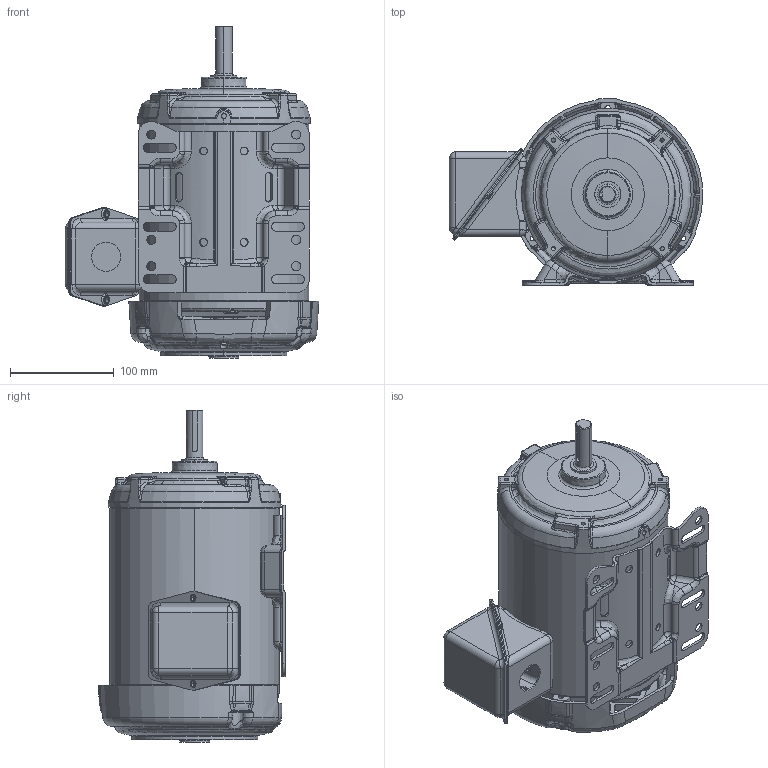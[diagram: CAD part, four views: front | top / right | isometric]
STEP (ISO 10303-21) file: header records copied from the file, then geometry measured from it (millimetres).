
FILE_DESCRIPTION((''),'2;1');
FILE_NAME('140_ASSY_ASM','2016-07-26T',('EMD2341'),('Nidec Motor Corporation'),'PRO/ENGINEER BY PARAMETRIC TECHNOLOGY CORPORATION, 2013150','PRO/ENGINEER BY PARAMETRIC TECHNOLOGY CORPORATION, 2013150','');
FILE_SCHEMA(('CONFIG_CONTROL_DESIGN'));
Length unit declared in the file: inch
Products named in the file (12): 143UT_AF0; 0190767; 0774783; 2030012; 0387280-BKT_AF0; I20258935000_AF0; 0387281_ASM; 0343740; 0399601; 0912536; B35796439; 140_ASSY_ASM
Assembly tree (11 placements, depth 3):
  140_ASSY_ASM
    143UT_AF0
    0190767
    0774783
    2030012
    0387281_ASM
      0387280-BKT_AF0
      I20258935000_AF0
    0343740
    0399601
    0912536
    B35796439
Bounding box: 244.51 x 180.07 x 320.15 mm (x, y, z)
Volume: 896184.7 mm3; surface area: 575408.7 mm2
Topology: 12 solids, 12 shells, 2477 faces, 6108 edges, 3643 vertices
Faces by surface type: bspline 1022, cylinder 494, plane 431, torus 277, cone 179, sphere 74
Entity records: 117116 total; most frequent: CARTESIAN_POINT 65390, ORIENTED_EDGE 12192, DIRECTION 9012, EDGE_CURVE 6096, AXIS2_PLACEMENT_3D 3830, VERTEX_POINT 3643, EDGE_LOOP 2637, FACE_OUTER_BOUND 2477
